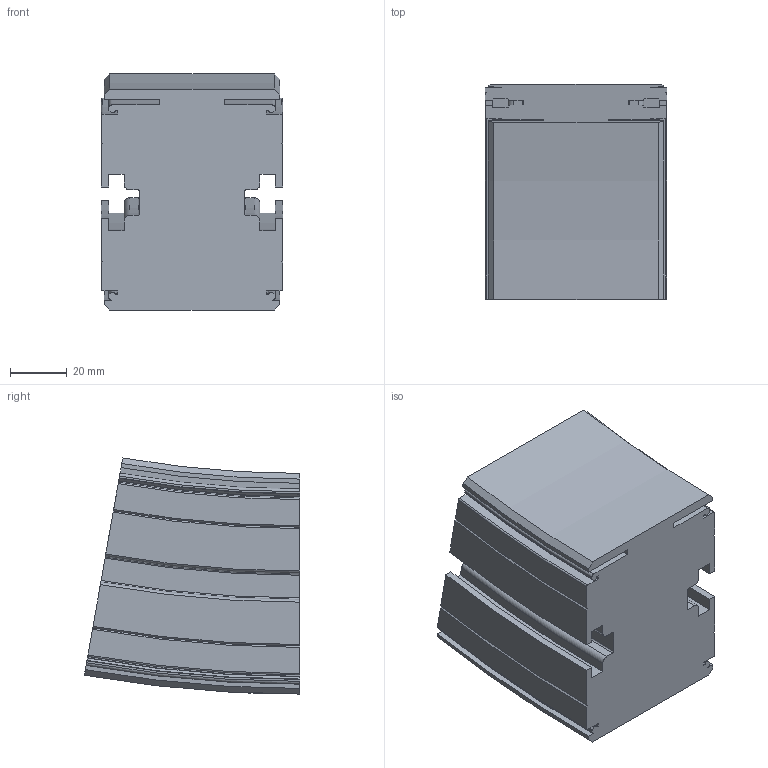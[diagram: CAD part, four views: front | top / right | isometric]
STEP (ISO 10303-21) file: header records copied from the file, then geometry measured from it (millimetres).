
FILE_DESCRIPTION(/* description */ ('VERTIKALKURVA S620 R400'),/* implementation_level */ '2;1');
FILE_NAME(/* name */ '\\carryline.intra\privat\users\mathias\Desktop\Tillfälliga filer\620-5645+620-2000-NER-01.stp',/* time_stamp */ '2018-12-05T15:48:25+01:00',/* author */ ('MD'),/* organization */ ('CARRYLINE'),/* preprocessor_version */ 'ST-DEVELOPER v17',/* originating_system */ 'Autodesk Inventor 2018',/* authorisation */ '');
FILE_SCHEMA (('AUTOMOTIVE_DESIGN { 1 0 10303 214 3 1 1 }'));
Length unit declared in the file: millimetre
Products named in the file (1): 620-5645+620-2000-NER-01
Bounding box: 64 x 76.06 x 83.47 mm (x, y, z)
Volume: 311305.7 mm3; surface area: 42030.4 mm2
Topology: 1 solids, 1 shells, 149 faces, 426 edges, 284 vertices
Faces by surface type: plane 54, cylinder 37, torus 28, cone 16, bspline 14
Entity records: 9542 total; most frequent: CARTESIAN_POINT 5522, ORIENTED_EDGE 852, DIRECTION 836, EDGE_CURVE 426, AXIS2_PLACEMENT_3D 315, VERTEX_POINT 284, LINE 206, VECTOR 206
